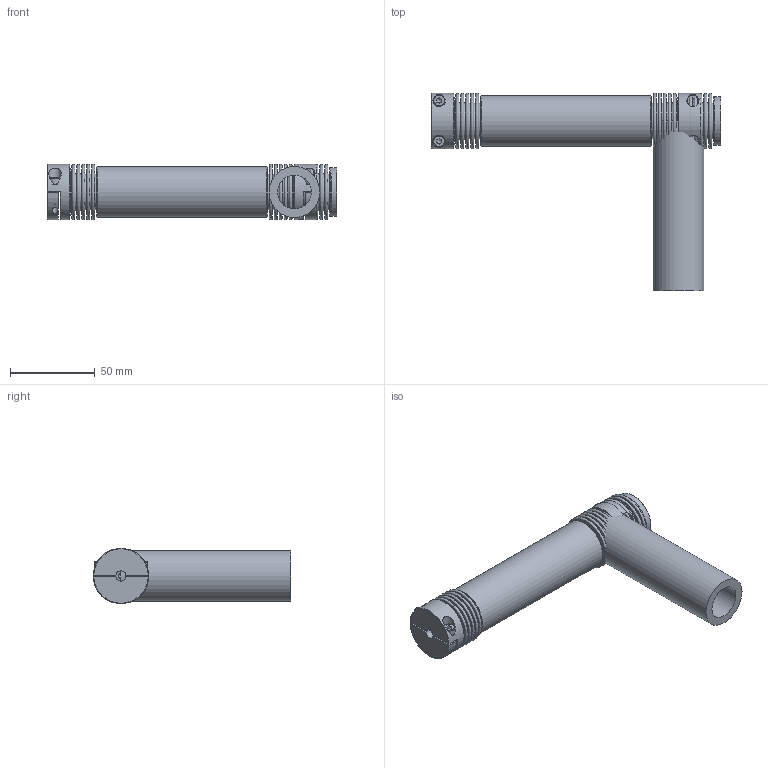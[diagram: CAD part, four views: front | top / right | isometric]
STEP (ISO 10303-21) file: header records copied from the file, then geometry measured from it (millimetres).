
FILE_DESCRIPTION( ( 'Unknown' ), '1' );
FILE_NAME( 'K:/Konstruktion/DRB/DRB4-5.stp', 'Unknown', ( 'Unknown' ), ( 'Unknown' ), 'XStep 1.0', 'Unknown', ' ' );
FILE_SCHEMA( ( 'automotive_design' ) );
Length unit declared in the file: millimetre
Products named in the file (6): Assem1; KNH-45; BK45_Standard_0; Socket Head Cap Screw_DIN_DIN 912 M4 x 12 --- 12N_2; R30
Bounding box: 170.27 x 116.33 x 32.66 mm (x, y, z)
Volume: 113366.4 mm3; surface area: 90490.9 mm2
Topology: 16 solids, 16 shells, 353 faces, 669 edges, 428 vertices
Faces by surface type: plane 190, torus 88, cylinder 56, cone 19
Full cylindrical faces by diameter (mm): 3.242 x6, 4 x5, 4.2 x6, 6 x3, 7 x5, 20 x2, 28.2 x6, 28.8 x6, 30 x2, 32.5 x3
Entity records: 3197 total; most frequent: CARTESIAN_POINT 628, DIRECTION 464, ORIENTED_EDGE 288, AXIS2_PLACEMENT_3D 211, EDGE_LOOP 190, FACE_OUTER_BOUND 147, EDGE_CURVE 144, VERTEX_POINT 121
